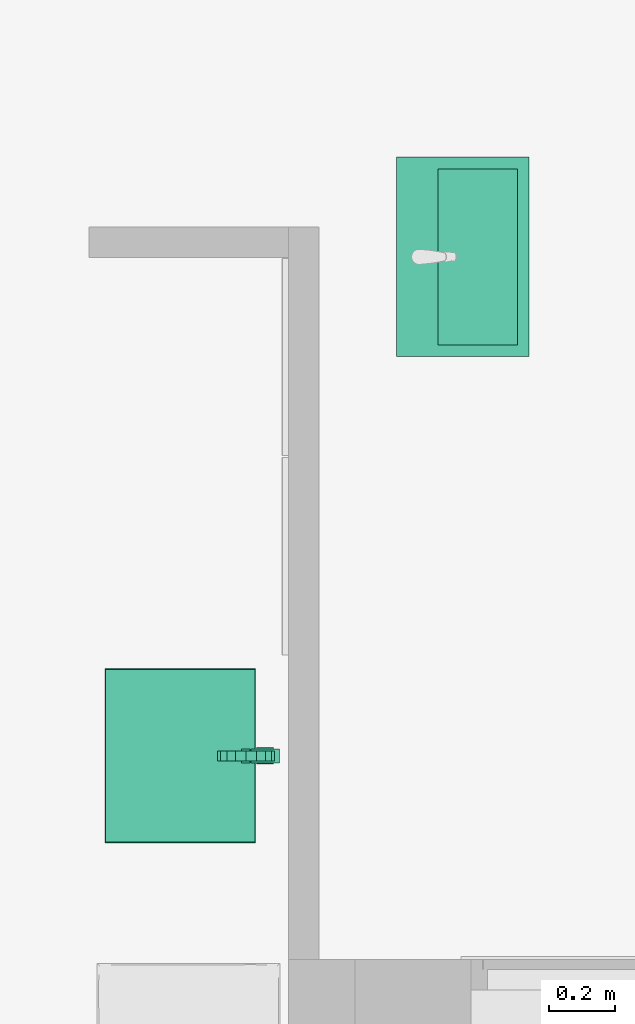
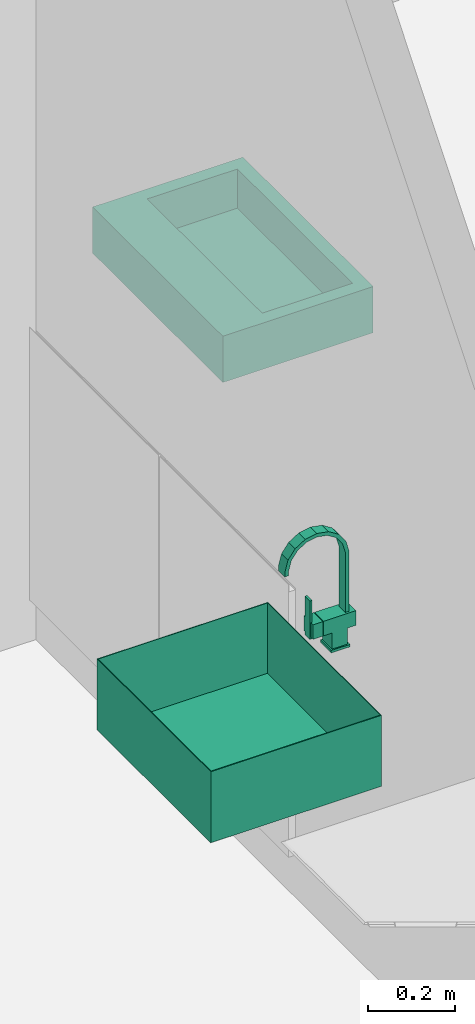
# One storey, part 16 of 42: 3 flow terminals.
"""IFC2X3 building model written with IfcOpenShell, lengths in millimetres."""

import ifcopenshell
import ifcopenshell.guid

model = None  # the IFC model being written
_history = None  # IfcOwnerHistory: only IFC2X3 demands one
_inside = {}  # id of a spatial element -> (the spatial element, [elements in it])
_under = {}  # id of a project, library or spatial element -> (it, [spatial elements below it])
_declared = {}  # id of a project -> (the project, [libraries it declares])
_typed = {}  # id of a type object -> (the type object, [elements of that type])
_made_of = {}  # id of a material, layer set ... -> (it, [elements and type objects made of it])


def new_model(schema):
    """Start an empty IFC model of exactly this schema.

    Asked for "IFC4X3", IfcOpenShell would pick the latest addendum, in which some entities
    have other attributes; the version numbers below select the first issue.
    IFC2X3 requires an IfcOwnerHistory on every rooted entity: one is made here for all.
    """
    global model, _history
    if schema == "IFC4X3":
        model = ifcopenshell.file(schema_version=(4, 3, 0, 0))
    else:
        model = ifcopenshell.file(schema=schema)
    _inside.clear()
    _under.clear()
    _declared.clear()
    _typed.clear()
    _made_of.clear()
    _history = None
    if model.schema == "IFC2X3":
        org = make("IfcOrganization", Name="unknown")
        user = make(
            "IfcPersonAndOrganization",
            ThePerson=make("IfcPerson", FamilyName="unknown"),
            TheOrganization=org,
        )
        app = make(
            "IfcApplication",
            ApplicationDeveloper=org,
            Version="unknown",
            ApplicationFullName="unknown",
            ApplicationIdentifier="unknown",
        )
        _history = make(
            "IfcOwnerHistory",
            OwningUser=user,
            OwningApplication=app,
            ChangeAction="ADDED",
            CreationDate=0,
        )
    return model


def make(cls, **values):
    """One entity of the class cls with the attributes given. An attribute that is None is left unset."""
    return model.create_entity(
        cls, **{name: value for name, value in values.items() if value is not None}
    )


def entity(cls, *values):
    """Any entity or typed value of the class cls, its attributes in the order of the schema. None: left unset."""
    e = model.create_entity(cls)
    for i, value in enumerate(values):
        if value is not None:
            e[i] = value
    return e


def rooted(cls, **values):
    """An entity with a GlobalId (a new one), such as an element, a storey or a relation."""
    return make(cls, GlobalId=ifcopenshell.guid.new(), OwnerHistory=_history, **values)


def si_unit(unit_type, name, prefix=None):
    """IfcSIUnit, for example si_unit("LENGTHUNIT", "METRE", prefix="MILLI")."""
    return make("IfcSIUnit", UnitType=unit_type, Prefix=prefix, Name=name)


def converted_unit(unit_type, name, factor, base, dimensions=None, offset=None):
    """IfcConversionBasedUnit, such as the inch: factor (a typed value) times the base unit."""
    return make(
        "IfcConversionBasedUnit"
        if offset is None
        else "IfcConversionBasedUnitWithOffset",
        ConversionOffset=offset,
        Dimensions=None
        if dimensions is None
        else entity("IfcDimensionalExponents", *dimensions),
        UnitType=unit_type,
        Name=name,
        ConversionFactor=make(
            "IfcMeasureWithUnit", ValueComponent=factor, UnitComponent=base
        ),
    )


def assignment(units):
    """IfcUnitAssignment: the units of a project."""
    return None if units is None else make("IfcUnitAssignment", Units=units)


def point(xyz):
    """IfcCartesianPoint."""
    return None if xyz is None else make("IfcCartesianPoint", Coordinates=xyz)


def direction(xyz):
    """IfcDirection."""
    return None if xyz is None else make("IfcDirection", DirectionRatios=xyz)


def frame(location, z_axis=None, x_axis=None):
    """IfcAxis2Placement3D, a coordinate frame: its origin and axes. An axis left out is left unset."""
    return make(
        "IfcAxis2Placement3D",
        Location=point(location),
        Axis=direction(z_axis),
        RefDirection=direction(x_axis),
    )


def origin():
    """The frame at (0, 0, 0) with its axes left unset."""
    return frame((0.0, 0.0, 0.0))


def place(relative_to, where):
    """IfcLocalPlacement: puts the frame where relative to a parent placement (None: the world)."""
    return make(
        "IfcLocalPlacement", PlacementRelTo=relative_to, RelativePlacement=where
    )


def context(
    kind, dimensions, precision=None, world=None, true_north=None, identifier=None
):
    """IfcGeometricRepresentationContext, for example the 3D "Model" context."""
    return make(
        "IfcGeometricRepresentationContext",
        ContextIdentifier=identifier,
        ContextType=kind,
        CoordinateSpaceDimension=dimensions,
        Precision=precision,
        WorldCoordinateSystem=world,
        TrueNorth=true_north,
    )


def subcontext(parent, identifier, kind, view, scale=None):
    """IfcGeometricRepresentationSubContext, for example "Body" below "Model"."""
    return make(
        "IfcGeometricRepresentationSubContext",
        ContextIdentifier=identifier,
        ContextType=kind,
        ParentContext=parent,
        TargetScale=scale,
        TargetView=view,
    )


def project(units=None, contexts=None):
    """IfcProject with its units and contexts."""
    return rooted(
        "IfcProject",
        Name="project",
        RepresentationContexts=contexts,
        UnitsInContext=assignment(units),
    )


def spatial(cls, under=None, at=None, **own):
    """A site, building, storey or space (cls), placed at a placement, below another one or the project."""
    s = rooted(cls, ObjectPlacement=at, **own)
    if under is not None:
        _under.setdefault(under.id(), (under, []))[1].append(s)
    return s


def faces_of(points, faces, orient=None, outer=None):
    """IfcFace entities. A face is a list of loops; a loop is a list of indices into points, from 0.

    orient and outer hold one flag for each loop. By default every Orientation is true, the
    first loop of a face is its IfcFaceOuterBound and the others are IfcFaceBound.
    """
    made = []
    for i, loops in enumerate(faces):
        bounds = []
        for j, loop in enumerate(loops):
            is_outer = j == 0 if outer is None else outer[i][j]
            bounds.append(
                make(
                    "IfcFaceOuterBound" if is_outer else "IfcFaceBound",
                    Bound=make("IfcPolyLoop", Polygon=[points[k] for k in loop]),
                    Orientation=True if orient is None else orient[i][j],
                )
            )
        made.append(make("IfcFace", Bounds=bounds))
    return made


def faceted_brep(points, faces, orient=None, outer=None, voids=None):
    """IfcFacetedBrep: a solid bounded by flat faces; with voids (closed shells), ...WithVoids."""
    shared = [point(p) for p in points]
    hull = make("IfcClosedShell", CfsFaces=faces_of(shared, faces, orient, outer))
    if voids is None:
        return make("IfcFacetedBrep", Outer=hull)
    return make(
        "IfcFacetedBrepWithVoids",
        Outer=hull,
        Voids=[
            make(cls, CfsFaces=faces_of(shared, fs, o, b)) for cls, fs, o, b in voids
        ],
    )


def shape(context_of_items, identifier, shape_type, items):
    """IfcShapeRepresentation: the items that make up one representation, for example the "Body"."""
    return make(
        "IfcShapeRepresentation",
        ContextOfItems=context_of_items,
        RepresentationIdentifier=identifier,
        RepresentationType=shape_type,
        Items=items,
    )


def source(mapping_origin, context_of_items, identifier, shape_type, items):
    """IfcRepresentationMap: a shape defined once, which mapped items show again and again."""
    return make(
        "IfcRepresentationMap",
        MappingOrigin=mapping_origin,
        MappedRepresentation=shape(context_of_items, identifier, shape_type, items),
    )


def transform(
    local_origin,
    x_axis=None,
    y_axis=None,
    z_axis=None,
    scale=None,
    scale2=None,
    scale3=None,
    uniform=True,
):
    """IfcCartesianTransformationOperator3D, or its non-uniform kind. x_axis, y_axis, z_axis: its Axis1, 2, 3."""
    if uniform:
        return make(
            "IfcCartesianTransformationOperator3D",
            Axis1=direction(x_axis),
            Axis2=direction(y_axis),
            LocalOrigin=point(local_origin),
            Scale=scale,
            Axis3=direction(z_axis),
        )
    return make(
        "IfcCartesianTransformationOperator3DnonUniform",
        Axis1=direction(x_axis),
        Axis2=direction(y_axis),
        LocalOrigin=point(local_origin),
        Scale=scale,
        Axis3=direction(z_axis),
        Scale2=scale2,
        Scale3=scale3,
    )


def mapped(mapping_source, mapping_target):
    """IfcMappedItem: shows the shape of a source again, moved by a transform."""
    return make(
        "IfcMappedItem", MappingSource=mapping_source, MappingTarget=mapping_target
    )


def material(Name=None, Category=None):
    """IfcMaterial."""
    return make("IfcMaterial", Name=Name, Category=Category)


def made_of(thing, what):
    """Note that an element or type object is made of a material, layer set ...; save() writes the relation."""
    if what is not None:
        _made_of.setdefault(what.id(), (what, []))[1].append(thing)
    return thing


def type_object(cls, material=None, **own):
    """A type object (cls), such as IfcWallType, which elements share."""
    return made_of(rooted(cls, **own), material)


def type_shapes(of_type, sources):
    """Give a type object the sources (RepresentationMaps) that its elements show as mapped items."""
    of_type.RepresentationMaps = sources


def element(
    cls,
    number,
    at=None,
    inside=None,
    cuts=None,
    type_object=None,
    material=None,
    context=None,
    identifier="Body",
    shape_type=None,
    held_by="IfcProductDefinitionShape",
    body=None,
    shapes=None,
    **own,
):
    """One element of the class cls, such as IfcWall. Its Tag is "e" and its number.

    at: its placement. inside: the storey or other place that contains it. cuts: it is an
    opening in that element (IfcRelVoidsElement). A single representation is given by context,
    identifier, shape_type and body (its items); several are given by shapes. held_by: the class
    of the entity that holds the representations. save() writes the other relations.
    """
    e = rooted(cls, Tag="e%d" % number, ObjectPlacement=at, **own)
    if body is not None:
        shapes = [shape(context, identifier, shape_type, body)]
    if shapes is not None:
        e.Representation = make(held_by, Representations=shapes)
    if inside is not None:
        _inside.setdefault(inside.id(), (inside, []))[1].append(e)
    if cuts is not None:
        rooted(
            "IfcRelVoidsElement", RelatingBuildingElement=cuts, RelatedOpeningElement=e
        )
    if type_object is not None:
        _typed.setdefault(type_object.id(), (type_object, []))[1].append(e)
    return made_of(e, material)


def aggregate(whole, parts):
    """IfcRelAggregates: a whole, such as a stair, and the parts it consists of."""
    return rooted("IfcRelAggregates", RelatingObject=whole, RelatedObjects=parts)


def save(model, path):
    """Write the relations noted so far, then the file.

    IfcRelAggregates (storeys below a building ...), IfcRelContainedInSpatialStructure (elements
    in a storey), IfcRelDefinesByType, IfcRelAssociatesMaterial and IfcRelDeclares: one each for
    every whole, place, type object, material and project.
    """
    for whole, parts in _under.values():
        aggregate(whole, parts)
    for where, things in _inside.values():
        rooted(
            "IfcRelContainedInSpatialStructure",
            RelatedElements=things,
            RelatingStructure=where,
        )
    for kind, things in _typed.values():
        rooted("IfcRelDefinesByType", RelatedObjects=things, RelatingType=kind)
    for what, things in _made_of.values():
        rooted("IfcRelAssociatesMaterial", RelatedObjects=things, RelatingMaterial=what)
    for by, libraries in _declared.values():
        rooted("IfcRelDeclares", RelatingContext=by, RelatedDefinitions=libraries)
    model.write(path)


model = new_model("IFC2X3")

# Units and contexts
model_context = context("Model", 3, precision=0.01, world=origin(), true_north=direction((6.123233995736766e-17, 1.0)))
plan_context = context("Plan", 3, precision=0.01, world=origin(), true_north=direction((6.123233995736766e-17, 1.0)))
body_context = subcontext(model_context, "Body", "Model", "MODEL_VIEW")
ifc_project = project(units=[si_unit("LENGTHUNIT", "METRE", prefix="MILLI"), converted_unit("PLANEANGLEUNIT", "DEGREE", entity("IfcPlaneAngleMeasure", 0.017453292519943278), si_unit("PLANEANGLEUNIT", "RADIAN"), dimensions=[0, 0, 0, 0, 0, 0, 0]), si_unit("AREAUNIT", "SQUARE_METRE")], contexts=[model_context, plan_context])

# Site, building, storey, space
site_placement = place(None, origin())
site = spatial("IfcSite", under=ifc_project, at=site_placement, Name="Default", CompositionType="ELEMENT")
building_placement = place(site_placement, origin())
building = spatial("IfcBuilding", under=site, at=building_placement, CompositionType="ELEMENT")
storey_placement = place(building_placement, frame((0.0, 0.0, 9465.000076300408)))
storey = spatial("IfcBuildingStorey", under=building, at=storey_placement, Name="4K", CompositionType="ELEMENT", Elevation=9465.000076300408)
space_1_placement = place(storey_placement, origin())
space_1 = spatial("IfcSpace", under=storey, at=space_1_placement, Name="4-9.2", CompositionType="ELEMENT", InteriorOrExteriorSpace="INTERNAL")

# Flow terminals
ifc_material = material(Name="<Unnamed>")
distribution_element_type_1 = type_object("IfcDistributionElementType", Name="HR_Plumbing-fixtures_Sink_Generic_Kitchen_v1:Default", material=ifc_material)
shared_shape_1 = source(origin(), body_context, "Body", "Brep", [
    faceted_brep([(260.0, -50.0, -3825.0), (260.0, -500.0, -3825.0), (-260.0, -500.0, -3825.0), (-260.0, -50.0, -3825.0), (262.0, -48.0, -3825.0), (-262.0, -48.0, -3825.0), (-262.0, -502.0, -3825.0), (262.0, -502.0, -3825.0), (262.0, -48.0, -4025.0), (262.0, -502.0, -4025.0), (-262.0, -502.0, -4025.0), (-262.0, -48.0, -4025.0), (260.0, -50.0, -4023.0), (260.0, -500.0, -4023.0), (-260.0, -500.0, -4023.0), (-260.0, -50.0, -4023.0)], [[[0, 1, 2, 3], [4, 5, 6, 7]], [[8, 9, 10, 11]], [[1, 0, 12, 13]], [[2, 1, 13, 14]], [[3, 2, 14, 15]], [[0, 3, 15, 12]], [[5, 4, 8, 11]], [[6, 5, 11, 10]], [[7, 6, 10, 9]], [[4, 7, 9, 8]], [[13, 12, 15, 14]]], outer=[[False, True], [True], [True], [True], [True], [True], [True], [True], [True], [True], [True]]),
])
type_shapes(distribution_element_type_1, [shared_shape_1])
flow_terminal_1_placement = place(space_1_placement, frame((2520.0, 8648.499959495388, 4695.0), z_axis=(0.0, 0.0, 1.0), x_axis=(0.0, 1.0, 0.0)))
element("IfcFlowTerminal", 1, at=flow_terminal_1_placement, inside=space_1, type_object=distribution_element_type_1, material=ifc_material, Name="HR_Plumbing-fixtures_Sink_Generic_Kitchen_v1:Default", ObjectType="HR_Plumbing-fixtures_Sink_Generic_Kitchen_v1:Default", context=body_context, shape_type="MappedRepresentation", body=[
    mapped(shared_shape_1, transform((0.0, 0.0, 0.0), scale=1.0)),
])
distribution_element_type_2 = type_object("IfcDistributionElementType", Name="HR_Plumbing-fixtures_Faucet_Generic_v1:Default", material=ifc_material)
shared_shape_2 = source(origin(), body_context, "Body", "Brep", [
    faceted_brep([(-21.0, 45.0, 93.0), (21.0, 45.0, 93.0), (21.0, 71.0, 93.0), (11.500000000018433, 71.0, 93.0), (11.50000000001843, 68.0, 93.0), (-11.49999999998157, 68.0, 93.0), (-11.499999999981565, 71.0, 93.0), (-21.0, 71.0, 93.0), (-21.0, 45.0, 52.0), (-21.0, 71.0, 52.0), (-11.499999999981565, 71.0, 52.0), (-11.49999999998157, 68.0, 52.0), (11.50000000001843, 68.0, 52.0), (11.500000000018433, 71.0, 52.0), (21.0, 71.0, 52.0), (21.0, 45.0, 52.0), (-11.499999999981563, 74.0, 155.0), (-11.499999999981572, 68.0, 155.0), (11.500000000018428, 68.0, 155.0), (11.500000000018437, 74.0, 155.0), (-11.499999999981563, 74.0, 47.0), (11.500000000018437, 74.0, 47.0), (11.500000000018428, 68.0, 47.0), (-11.499999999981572, 68.0, 47.0)], [[[0, 1, 2, 3, 4, 5, 6, 7]], [[8, 9, 10, 11, 12, 13, 14, 15]], [[1, 0, 8, 15]], [[2, 1, 15, 14]], [[2, 14, 13, 3]], [[0, 7, 9, 8]], [[16, 17, 18, 19]], [[20, 21, 22, 23]], [[17, 16, 20, 23, 11, 10, 6, 5]], [[18, 17, 5, 4]], [[19, 18, 4, 3, 13, 12, 22, 21]], [[16, 19, 21, 20]], [[23, 22, 12, 11]], [[9, 7, 6, 10]]]),
    faceted_brep([(15.0, -28.2999999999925, 93.0), (-15.0, -28.299999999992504, 93.0), (-15.0, -18.299999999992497, 93.0), (15.0, -18.299999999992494, 93.0), (15.0, -28.299999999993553, 262.91444034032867), (-15.0, -28.29999999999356, 262.9144403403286), (-15.0, -18.29999999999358, 262.49427421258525), (15.0, -18.299999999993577, 262.49427421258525), (15.0, -24.100059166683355, 278.21407775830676), (15.0, -19.900118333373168, 293.51371517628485), (-15.0, -19.900118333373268, 293.5137151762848), (-15.0, -24.100059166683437, 278.2140777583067), (-15.0, -0.9291565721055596, 318.9494428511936), (-15.0, -10.414637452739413, 306.2315790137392), (15.0, -10.414637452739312, 306.23157901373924), (15.0, -0.9291565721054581, 318.9494428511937), (15.0, 142.33160759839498, 262.51576689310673), (-15.0, 142.33160759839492, 262.51576689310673), (-15.0, 138.20320612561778, 277.83486312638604), (-15.0, 134.07480465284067, 293.15395935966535), (15.0, 134.07480465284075, 293.15395935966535), (15.0, 138.20320612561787, 277.83486312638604), (-15.0, 26.005040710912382, 335.7250992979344), (-15.0, 12.537942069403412, 327.337271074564), (15.0, 12.537942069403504, 327.337271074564), (15.0, 26.005040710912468, 335.7250992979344), (-15.0, 57.19996222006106, 341.5346177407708), (-15.0, 41.60250146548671, 338.6298585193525), (15.0, 41.60250146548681, 338.62985851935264), (15.0, 57.19996222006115, 341.5346177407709), (-15.0, 88.36739590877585, 335.5793923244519), (-15.0, 72.78367906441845, 338.55700503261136), (15.0, 72.78367906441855, 338.55700503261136), (15.0, 88.36739590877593, 335.5793923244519), (-15.0, 124.64885649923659, 305.9160089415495), (-15.0, 115.22290834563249, 318.67805852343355), (15.0, 115.22290834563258, 318.67805852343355), (15.0, 124.64885649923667, 305.9160089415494), (-15.0, 101.79515212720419, 327.1287254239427), (15.0, 101.79515212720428, 327.1287254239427), (-15.0, 142.3316075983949, 249.0), (-15.0, 132.33160759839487, 249.0), (-15.0, 132.3316075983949, 262.11973222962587), (-15.0, 128.64003790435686, 275.58767371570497), (-15.0, 124.94846821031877, 289.05561520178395), (-15.0, 116.61798076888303, 300.2634746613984), (-15.0, 108.28749332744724, 311.4713341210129), (-15.0, 96.45555148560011, 318.88876541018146), (-15.0, 84.623609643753, 326.30619669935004), (-15.0, 70.90577314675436, 328.9204071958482), (-15.0, 57.187936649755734, 331.53461769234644), (-15.0, 43.457269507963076, 328.98865726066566), (-15.0, 29.726602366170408, 326.4426968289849), (-15.0, 17.85792051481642, 319.08419658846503), (-15.0, 5.989238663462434, 311.72569634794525), (-15.0, -2.3968815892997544, 300.55940234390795), (-15.0, -10.783001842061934, 289.3931083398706), (-15.0, -14.541500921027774, 275.9436912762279), (15.0, -10.783001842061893, 289.3931083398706), (15.0, -14.541500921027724, 275.9436912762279), (15.0, 5.989238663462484, 311.7256963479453), (15.0, -2.396881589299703, 300.55940234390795), (15.0, 116.61798076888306, 300.2634746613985), (15.0, 108.28749332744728, 311.47133412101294), (15.0, 124.94846821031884, 289.05561520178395), (15.0, 29.726602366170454, 326.4426968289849), (15.0, 17.857920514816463, 319.08419658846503), (15.0, 57.187936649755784, 331.53461769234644), (15.0, 43.45726950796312, 328.98865726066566), (15.0, 84.62360964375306, 326.30619669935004), (15.0, 70.90577314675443, 328.9204071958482), (15.0, 127.94606568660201, 278.11949025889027), (15.0, 132.33160759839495, 262.11973222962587), (15.0, 96.45555148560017, 318.88876541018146), (15.0, 132.33160759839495, 249.0), (15.0, 142.33160759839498, 249.0)], [[[0, 1, 2, 3]], [[1, 0, 4, 5]], [[3, 2, 6, 7]], [[4, 8, 9, 10, 11, 5]], [[12, 13, 10, 9, 14, 15]], [[16, 17, 18, 19, 20, 21]], [[22, 23, 12, 15, 24, 25]], [[26, 27, 22, 25, 28, 29]], [[30, 31, 26, 29, 32, 33]], [[34, 35, 36, 37, 20, 19]], [[35, 38, 30, 33, 39, 36]], [[17, 40, 41, 42, 43, 44, 45, 46, 47, 48, 49, 50, 51, 52, 53, 54, 55, 56, 57, 6, 2, 1, 5, 11, 10, 13, 12, 23, 22, 27, 26, 31, 30, 38, 35, 34, 19, 18]], [[6, 57, 56, 58, 59, 7]], [[60, 61, 58, 56, 55, 54]], [[62, 63, 46, 45, 44, 64]], [[65, 66, 60, 54, 53, 52]], [[65, 52, 51, 50, 67, 68]], [[69, 70, 67, 50, 49, 48]], [[71, 64, 44, 43, 42, 72]], [[47, 46, 63, 73, 69, 48]], [[72, 74, 75, 16, 21, 20, 37, 36, 39, 33, 32, 29, 28, 25, 24, 15, 14, 9, 8, 4, 0, 3, 7, 59, 58, 61, 60, 66, 65, 68, 67, 70, 69, 73, 63, 62, 64, 71]], [[41, 40, 75, 74]], [[17, 16, 75, 40]], [[72, 42, 41, 74]]]),
    faceted_brep([(-21.0, -43.0, 93.0), (21.0, -43.0, 93.0), (21.0, 43.0, 93.0), (-21.0, 43.0, 93.0), (-21.0, -43.0, 52.0), (-21.0, 43.0, 52.0), (21.0, 43.0, 52.0), (21.0, -43.0, 52.0)], [[[0, 1, 2, 3]], [[4, 5, 6, 7]], [[1, 0, 4, 7]], [[2, 1, 7, 6]], [[3, 2, 6, 5]], [[0, 3, 5, 4]]]),
    faceted_brep([(21.0, -21.0, 52.0), (21.0, 21.0, 52.0), (-21.0, 21.0, 52.0), (-21.0, -21.0, 52.0), (21.0, -21.0, 7.0), (-21.0, -21.0, 7.0), (-21.0, 21.0, 7.0), (21.0, 21.0, 7.0)], [[[0, 1, 2, 3]], [[4, 5, 6, 7]], [[1, 0, 4, 7]], [[2, 1, 7, 6]], [[3, 2, 6, 5]], [[0, 3, 5, 4]]]),
    faceted_brep([(-25.0, 25.0, 7.0), (-25.0, -25.0, 7.0), (25.0, -25.0, 7.0), (25.0, 25.0, 7.0), (-25.0, 25.0, 0.0), (25.0, 25.0, 0.0), (25.0, -25.0, 0.0), (-25.0, -25.0, 0.0)], [[[0, 1, 2, 3]], [[4, 5, 6, 7]], [[1, 0, 4, 7]], [[2, 1, 7, 6]], [[3, 2, 6, 5]], [[0, 3, 5, 4]]]),
])
type_shapes(distribution_element_type_2, [shared_shape_2])
flow_terminal_2_placement = place(space_1_placement, frame((3050.0, 8648.499959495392, 900.0), z_axis=(0.0, 0.0, 1.0), x_axis=(0.0, 1.0, 0.0)))
element("IfcFlowTerminal", 2, at=flow_terminal_2_placement, inside=space_1, type_object=distribution_element_type_2, material=ifc_material, Name="HR_Plumbing-fixtures_Faucet_Generic_v1:Default", ObjectType="HR_Plumbing-fixtures_Faucet_Generic_v1:Default", context=body_context, shape_type="MappedRepresentation", body=[
    mapped(shared_shape_2, transform((0.0, 0.0, 0.0), scale=1.0)),
])

# Space
space_2_placement = place(storey_placement, origin())
space_2 = spatial("IfcSpace", under=storey, at=space_2_placement, Name="4-9.1", CompositionType="ELEMENT", InteriorOrExteriorSpace="INTERNAL")

# Flow terminal
distribution_element_type_3 = type_object("IfcDistributionElementType", Name="HR_Plumbing-fixtures_Sink_Generic_Bathroom_v1:600 x 400 mm", material=ifc_material)
shared_shape_3 = source(origin(), body_context, "Body", "Brep", [
    faceted_brep([(300.0, 0.0, 0.0), (-300.0, 0.0, 0.0), (-300.0, -400.0, 0.0), (300.0, -400.0, 0.0), (-265.0, -125.0, 0.0), (265.0, -125.0, 0.0), (265.0, -365.0, 0.0), (-265.0, -365.0, 0.0), (300.0, 0.0, -130.0), (300.0, -400.0, -130.0), (-300.0, -400.0, -130.0), (-300.0, 0.0, -130.0), (265.0, -125.0, -110.0), (-265.0, -125.0, -110.0), (-265.0, -365.0, -110.0), (265.0, -365.0, -110.0)], [[[0, 1, 2, 3], [4, 5, 6, 7]], [[8, 9, 10, 11]], [[1, 0, 8, 11]], [[2, 1, 11, 10]], [[3, 2, 10, 9]], [[0, 3, 9, 8]], [[12, 13, 14, 15]], [[13, 12, 5, 4]], [[14, 13, 4, 7]], [[15, 14, 7, 6]], [[12, 15, 6, 5]]]),
])
type_shapes(distribution_element_type_3, [shared_shape_3])
flow_terminal_3_placement = place(space_2_placement, frame((3444.993534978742, 10150.0, 900.0), z_axis=(0.0, 0.0, 1.0), x_axis=(0.0, 1.0, 0.0)))
element("IfcFlowTerminal", 3, at=flow_terminal_3_placement, inside=space_2, type_object=distribution_element_type_3, material=ifc_material, Name="HR_Plumbing-fixtures_Sink_Generic_Bathroom_v1:600 x 400 mm", ObjectType="HR_Plumbing-fixtures_Sink_Generic_Bathroom_v1:600 x 400 mm", context=body_context, shape_type="MappedRepresentation", body=[
    mapped(shared_shape_3, transform((0.0, 0.0, 0.0), scale=1.0)),
])

save(model, "model.ifc")
